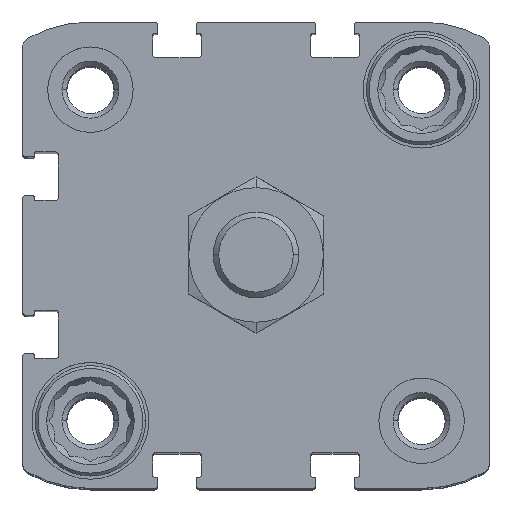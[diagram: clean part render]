
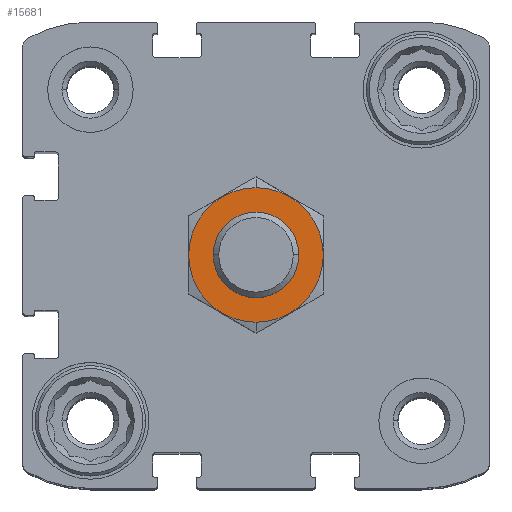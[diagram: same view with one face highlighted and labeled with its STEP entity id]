
A CAD part, top view. The second image highlights one B-rep face of the part: STEP entity #15681.
In plain terms, the highlighted planar face has unit normal (0, 0, 1).
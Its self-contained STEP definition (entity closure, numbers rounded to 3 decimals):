
#204 = EDGE_LOOP ( 'NONE', ( #6293, #1791 ) ) ;
#762 = DIRECTION ( 'NONE',  ( 0., 1., 0. ) ) ;
#1791 = ORIENTED_EDGE ( 'NONE', *, *, #3465, .F. ) ;
#1813 = CARTESIAN_POINT ( 'NONE',  ( 0., 0., 19.5 ) ) ;
#2150 = DIRECTION ( 'NONE',  ( 0., 1., 0. ) ) ;
#2229 = CARTESIAN_POINT ( 'NONE',  ( 0., 0., 19.5 ) ) ;
#2309 = EDGE_CURVE ( 'NONE', #5506, #5759, #9293, .T. ) ;
#2539 = DIRECTION ( 'NONE',  ( 0., 1., 0. ) ) ;
#2935 = CARTESIAN_POINT ( 'NONE',  ( 0., -9.45, 19.5 ) ) ;
#3217 = EDGE_LOOP ( 'NONE', ( #13348, #8361 ) ) ;
#3389 = VERTEX_POINT ( 'NONE', #3759 ) ;
#3465 = EDGE_CURVE ( 'NONE', #5759, #5506, #16333, .T. ) ;
#3497 = CIRCLE ( 'NONE', #13511, 6. ) ;
#3532 = DIRECTION ( 'NONE',  ( 0., 1., 0. ) ) ;
#3759 = CARTESIAN_POINT ( 'NONE',  ( 0., -6., 19.5 ) ) ;
#5506 = VERTEX_POINT ( 'NONE', #15313 ) ;
#5750 = CIRCLE ( 'NONE', #12697, 6. ) ;
#5759 = VERTEX_POINT ( 'NONE', #2935 ) ;
#5776 = DIRECTION ( 'NONE',  ( 0., 0., -1. ) ) ;
#5934 = VERTEX_POINT ( 'NONE', #12953 ) ;
#6073 = CARTESIAN_POINT ( 'NONE',  ( 0., 0., 19.5 ) ) ;
#6293 = ORIENTED_EDGE ( 'NONE', *, *, #2309, .F. ) ;
#7078 = AXIS2_PLACEMENT_3D ( 'NONE', #13600, #5776, #13689 ) ;
#7716 = DIRECTION ( 'NONE',  ( 0., 0., -1. ) ) ;
#8361 = ORIENTED_EDGE ( 'NONE', *, *, #8980, .T. ) ;
#8621 = DIRECTION ( 'NONE',  ( 0., 0., -1. ) ) ;
#8946 = FACE_OUTER_BOUND ( 'NONE', #204, .T. ) ;
#8980 = EDGE_CURVE ( 'NONE', #5934, #3389, #3497, .T. ) ;
#9293 = CIRCLE ( 'NONE', #7078, 9.45 ) ;
#9502 = EDGE_CURVE ( 'NONE', #3389, #5934, #5750, .T. ) ;
#11305 = PLANE ( 'NONE',  #12230 ) ;
#12230 = AXIS2_PLACEMENT_3D ( 'NONE', #2229, #12943, #2150 ) ;
#12697 = AXIS2_PLACEMENT_3D ( 'NONE', #6073, #7716, #3532 ) ;
#12943 = DIRECTION ( 'NONE',  ( 0., 0., -1. ) ) ;
#12953 = CARTESIAN_POINT ( 'NONE',  ( 0., 6., 19.5 ) ) ;
#13258 = DIRECTION ( 'NONE',  ( 0., 0., -1. ) ) ;
#13260 = AXIS2_PLACEMENT_3D ( 'NONE', #14462, #13258, #2539 ) ;
#13348 = ORIENTED_EDGE ( 'NONE', *, *, #9502, .T. ) ;
#13511 = AXIS2_PLACEMENT_3D ( 'NONE', #1813, #8621, #762 ) ;
#13600 = CARTESIAN_POINT ( 'NONE',  ( 0., 0., 19.5 ) ) ;
#13689 = DIRECTION ( 'NONE',  ( 0., 1., 0. ) ) ;
#14079 = FACE_BOUND ( 'NONE', #3217, .T. ) ;
#14462 = CARTESIAN_POINT ( 'NONE',  ( 0., 0., 19.5 ) ) ;
#15313 = CARTESIAN_POINT ( 'NONE',  ( 0., 9.45, 19.5 ) ) ;
#15681 = ADVANCED_FACE ( 'NONE', ( #8946, #14079 ), #11305, .F. ) ;
#16333 = CIRCLE ( 'NONE', #13260, 9.45 ) ;
